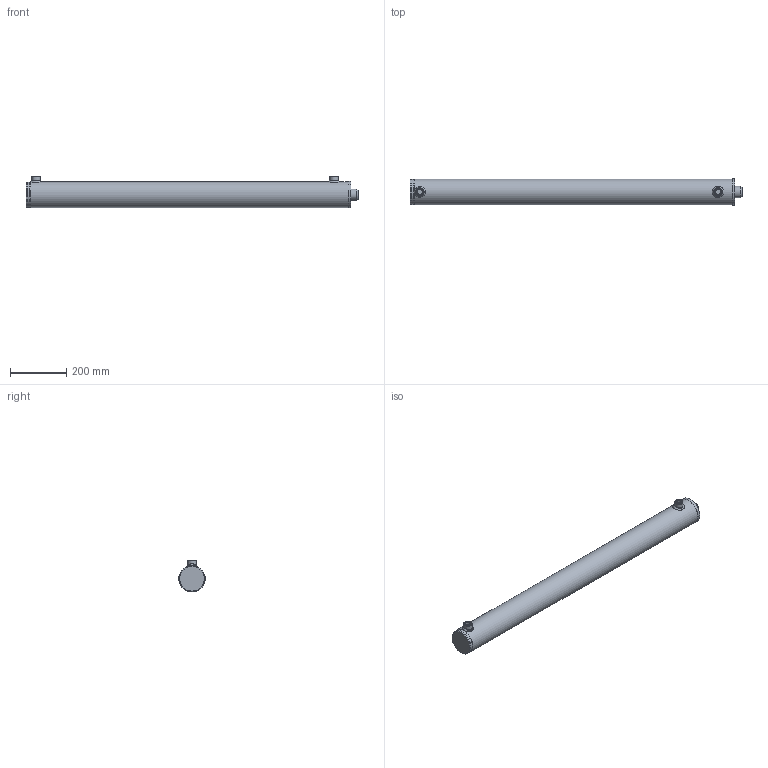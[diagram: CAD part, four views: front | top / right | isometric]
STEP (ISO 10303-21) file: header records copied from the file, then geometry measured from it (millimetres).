
FILE_DESCRIPTION( ( 'Unknown' ), '1' );
FILE_NAME( 'E:/LIBRERIA_3d/CILINDRI/HM0/HM05401000.stp', 'Unknown', ( 'Unknown' ), ( 'Unknown' ), 'PSStep 17.0.49', 'Unknown', ' ' );
FILE_SCHEMA( ( 'AUTOMOTIVE_DESIGN { 1 0 10303 214 1 1 1 1 }' ) );
Length unit declared in the file: millimetre
Products named in the file (18): CT00080027; STL5601000-oa4; Saldatura d'angolo 1-oa2; CBS0800000; FTM5601000-oa3; CG09508040; Assem1; Saldatura con preparazione 1-oa0; Saldatura d'angolo 1-oa1; CF00080090; CDA0002720; APG0800000; SBL4051000
Assembly tree (15 placements, depth 3):
  Saldatura d'angolo 1-oa2
  Saldatura d'angolo 1-oa2
  Assem1
    Saldatura con preparazione 1-oa0
    Saldatura con preparazione 1-oa0
    CF00080090
    CBS0800000
    CDA0002720
    APG0800000  x2
    SBL4051000
    CG09508040
      CG09508040
    CT00080027
      CT00080027
    STL5601000-oa4
      CBS0800000
      FTM5601000-oa3
  Saldatura d'angolo 1-oa1
  Saldatura d'angolo 1-oa1
Bounding box: 1180 x 94 x 113 mm (x, y, z)
Volume: 3763213.2 mm3; surface area: 882123.5 mm2
Topology: 16 solids, 16 shells, 196 faces, 394 edges, 245 vertices
Faces by surface type: plane 60, cylinder 56, torus 36, cone 32, bspline 12
Full cylindrical faces by diameter (mm): 4.25 x1, 8 x2, 12 x1, 18.631 x2, 19.5 x2, 20.95 x2, 26 x2, 26.4 x1, 27 x5, 30 x2, 33.2 x1, 40 x5, 41 x1, 43 x3, 48.6 x1, 50 x1, 60 x1, 74.16 x2, 75 x1, 78.34 x2, 79.9 x1, 80 x1, 80.3 x1, 80.5 x1, 80.6 x1, 81 x1, 82 x3, 82.835 x1, 85 x1, 90 x3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
Entity records: 9223 total; most frequent: CARTESIAN_POINT 4377, DIRECTION 730, ORIENTED_EDGE 416, AXIS2_PLACEMENT_3D 352, EDGE_LOOP 347, FACE_OUTER_BOUND 280, EDGE_CURVE 208, VERTEX_POINT 194
